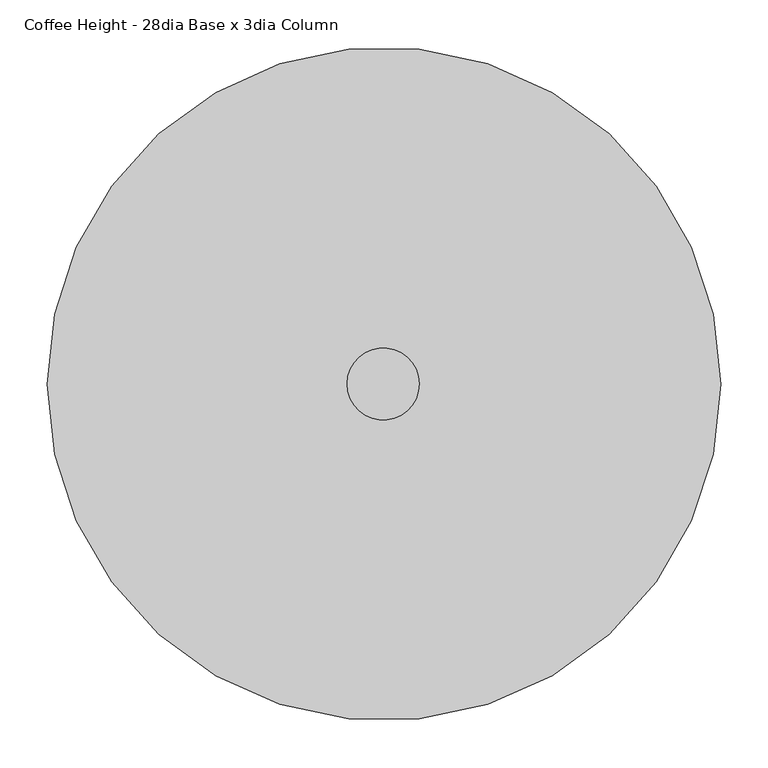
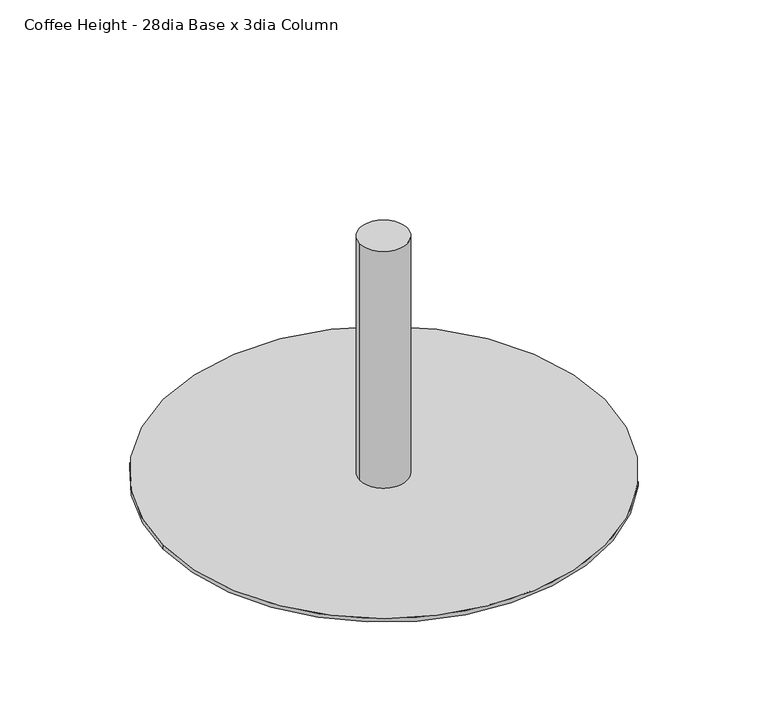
"""IFC4 building model written with IfcOpenShell, lengths in millimetres: furniture geometry, Steelcase - Groupwork - Table - Base : Coffee Height - 28dia Base x 3dia Column."""

from ifc_helpers import new_model, si_unit, point, frame, frame_2d, origin, origin_with_axes, origin_2d, place, context, project, spatial, circle_curve, trimmed, segment, composite_curve, outline, extrude, source, transform, mapped, element, save


def coffee_height_28dia_base_x_3dia_column_50198b44(model_context):
    return source(origin(), model_context, "Body", "SweptSolid", [
        extrude(outline(composite_curve([segment(trimmed(circle_curve(frame_2d((-0.79375, 0.0)), 38.1), [point((-38.89375, 0.0))], [point((37.30625, 0.0))], False, "CARTESIAN"), True, "CONTINUOUS"), segment(trimmed(circle_curve(frame_2d((-0.79375, 0.0)), 38.1), [point((37.30625, 0.0))], [point((-38.89375, 0.0))], False, "CARTESIAN"), True, "CONTINUOUS")], self_intersect=False)), frame((0.0, 0.0, 6.35), z_axis=(0.0, 0.0, 1.0), x_axis=(1.0, 0.0, 0.0)), (0.0, 0.0, 1.0), 403.352),
        extrude(outline(composite_curve([segment(trimmed(circle_curve(origin_2d(), 355.6), [point((-355.6, 0.0))], [point((355.6, 0.0))], False, "CARTESIAN"), True, "CONTINUOUS"), segment(trimmed(circle_curve(origin_2d(), 355.6), [point((355.6, 0.0))], [point((-355.6, 0.0))], False, "CARTESIAN"), True, "CONTINUOUS")], self_intersect=False)), origin_with_axes(), (0.0, 0.0, 1.0), 6.35),
    ])


if __name__ == "__main__":
    model = new_model("IFC4")
    model_context = context("Model", 3, world=origin())
    ifc_project = project(units=[si_unit("LENGTHUNIT", "METRE", prefix="MILLI")], contexts=[model_context])
    site = spatial("IfcSite", under=ifc_project)
    building = spatial("IfcBuilding", under=site)
    placement = place(None, origin())
    coffee_height_28dia_base_x_3dia_column_shape = coffee_height_28dia_base_x_3dia_column_50198b44(model_context)
    element("IfcFurniture", 1, ObjectType="Steelcase - Groupwork - Table - Base : Coffee Height - 28dia Base x 3dia Column", at=placement, inside=building, context=model_context, shape_type="MappedRepresentation", body=[
        mapped(coffee_height_28dia_base_x_3dia_column_shape, transform((0.0, 0.0, 0.0), x_axis=(1.0, 0.0, 0.0), y_axis=(0.0, 1.0, 0.0), z_axis=(0.0, 0.0, 1.0))),
    ])
    save(model, "model.ifc")
